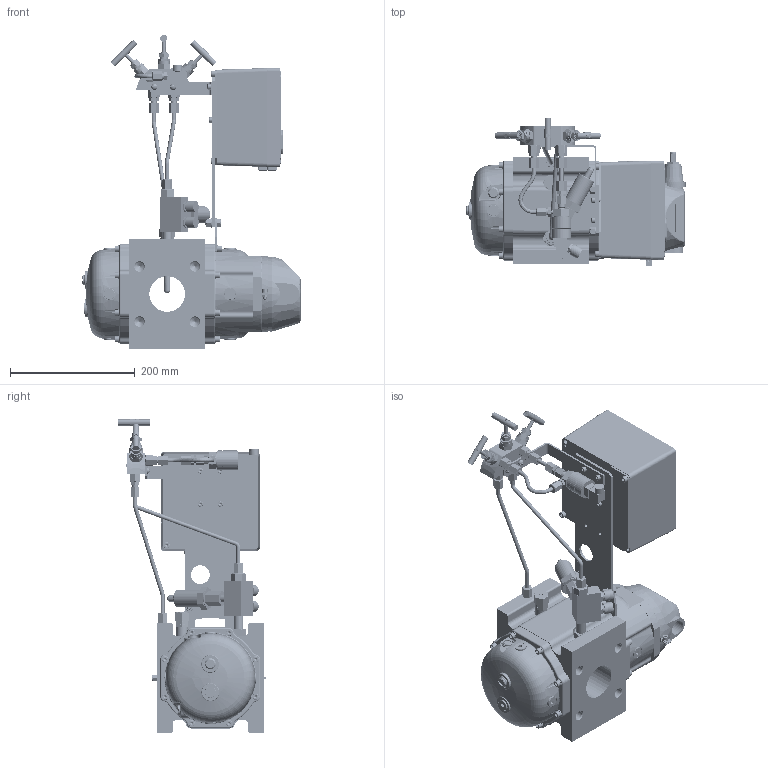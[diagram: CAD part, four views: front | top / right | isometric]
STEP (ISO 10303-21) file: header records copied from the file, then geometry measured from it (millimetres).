
FILE_DESCRIPTION(('STEP AP203'), '1');
FILE_NAME('楥-2230-G40', '', ('UNSPECIFIED'), ('UNSPECIFIED'), 'C3D Converter', 'C3D Toolkit', '');
FILE_SCHEMA(('CONFIG_CONTROL_DESIGN'));
Length unit declared in the file: millimetre
Bounding box: 350.5 x 235.75 x 502.43 mm (x, y, z)
Volume: 6499422.3 mm3; surface area: 729373.3 mm2
Topology: 5 solids, 8 shells, 10470 faces, 29263 edges, 19592 vertices
Faces by surface type: plane 5246, extrusion 2990, cylinder 1595, cone 262, torus 221, bspline 144, sphere 12
Full cylindrical faces by diameter (mm): 1 x23, 1.5 x1, 2 x11, 2.2 x1, 2.5 x4, 3 x17, 3.5 x4, 4 x29, 4.4 x1, 5 x5, 5.4 x1, 5.5 x5, 6 x13, 6.381 x1, 6.5 x9, 7 x16, 7.4 x4, 7.5 x7, 8 x5, 8.466 x1, 8.5 x5, 9.4 x9, 9.526 x2, 9.65 x1, 10 x37, 11 x24, 11.002 x1, 12 x17, 13.134 x3, 13.835 x8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
Entity records: 496667 total; most frequent: CARTESIAN_POINT 160065, ORIENTED_EDGE 55940, DIRECTION 41788, EDGE_CURVE 28570, VERTEX_POINT 19518, VECTOR 19244, LINE 16254, EDGE_LOOP 12044
